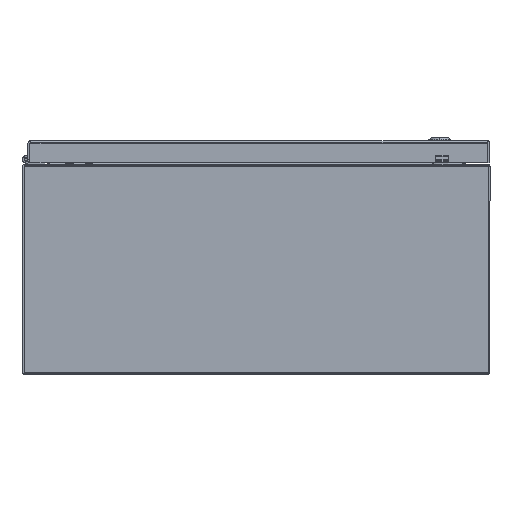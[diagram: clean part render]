
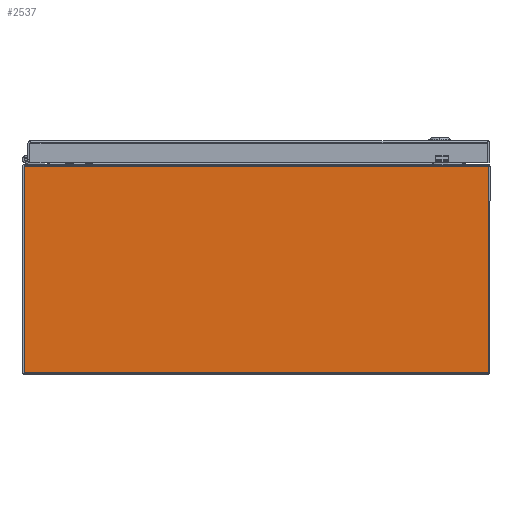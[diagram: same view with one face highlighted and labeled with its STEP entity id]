
A CAD part, front view. The second image highlights one B-rep face of the part: STEP entity #2537.
In plain terms, the highlighted planar face has unit normal (0, -1, 0) as drawn and (0, 1, 0) by its records, which use the part's own axes.
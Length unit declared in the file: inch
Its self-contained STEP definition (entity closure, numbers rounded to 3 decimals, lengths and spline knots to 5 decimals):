
#2537 = ADVANCED_FACE ( 'NONE', ( #53639 ), #53959, .F. ) ;
#5564 = VERTEX_POINT ( 'NONE', #57113 ) ;
#5567 = VERTEX_POINT ( 'NONE', #57116 ) ;
#5575 = VERTEX_POINT ( 'NONE', #57121 ) ;
#5579 = VERTEX_POINT ( 'NONE', #57123 ) ;
#18531 = EDGE_CURVE ( 'NONE', #5579, #5575, #63532, .T. ) ;
#18542 = EDGE_CURVE ( 'NONE', #5567, #5575, #63547, .T. ) ;
#18546 = EDGE_CURVE ( 'NONE', #5564, #5567, #63557, .T. ) ;
#18550 = EDGE_CURVE ( 'NONE', #5564, #5579, #63562, .T. ) ;
#29685 = EDGE_LOOP ( 'NONE', ( #33107, #33110, #33113, #33115 ) ) ;
#33107 = ORIENTED_EDGE ( 'NONE', *, *, #18542, .T. ) ;
#33110 = ORIENTED_EDGE ( 'NONE', *, *, #18531, .F. ) ;
#33113 = ORIENTED_EDGE ( 'NONE', *, *, #18550, .F. ) ;
#33115 = ORIENTED_EDGE ( 'NONE', *, *, #18546, .T. ) ;
#53132 = AXIS2_PLACEMENT_3D ( 'NONE', #53954, #53964, #53965 ) ;
#53639 = FACE_OUTER_BOUND ( 'NONE', #29685, .T. ) ;
#53954 = CARTESIAN_POINT ( 'NONE',  ( 11.731, 0., 0.078 ) ) ;
#53959 = PLANE ( 'NONE',  #53132 ) ;
#53964 = DIRECTION ( 'NONE',  ( 0., -1., 0. ) ) ;
#53965 = DIRECTION ( 'NONE',  ( 0., 0., -1. ) ) ;
#57113 = CARTESIAN_POINT ( 'NONE',  ( 11.731, 0., 0.078 ) ) ;
#57116 = CARTESIAN_POINT ( 'NONE',  ( -11.731, 0., 0.078 ) ) ;
#57121 = CARTESIAN_POINT ( 'NONE',  ( -11.731, 0., 10.5 ) ) ;
#57123 = CARTESIAN_POINT ( 'NONE',  ( 11.731, 0., 10.5 ) ) ;
#63529 = VECTOR ( 'NONE', #63805, 39.37008 ) ;
#63532 = LINE ( 'NONE', #63804, #63529 ) ;
#63538 = VECTOR ( 'NONE', #63833, 39.37008 ) ;
#63547 = LINE ( 'NONE', #63832, #63538 ) ;
#63552 = VECTOR ( 'NONE', #63850, 39.37008 ) ;
#63557 = LINE ( 'NONE', #63840, #63558 ) ;
#63558 = VECTOR ( 'NONE', #63841, 39.37008 ) ;
#63562 = LINE ( 'NONE', #63842, #63552 ) ;
#63804 = CARTESIAN_POINT ( 'NONE',  ( 11.731, 0., 10.5 ) ) ;
#63805 = DIRECTION ( 'NONE',  ( -1., 0., 0. ) ) ;
#63832 = CARTESIAN_POINT ( 'NONE',  ( -11.731, 0., 0.078 ) ) ;
#63833 = DIRECTION ( 'NONE',  ( 0., 0., 1. ) ) ;
#63840 = CARTESIAN_POINT ( 'NONE',  ( 11.731, 0., 0.078 ) ) ;
#63841 = DIRECTION ( 'NONE',  ( -1., 0., 0. ) ) ;
#63842 = CARTESIAN_POINT ( 'NONE',  ( 11.731, 0., 0.078 ) ) ;
#63850 = DIRECTION ( 'NONE',  ( 0., 0., 1. ) ) ;
